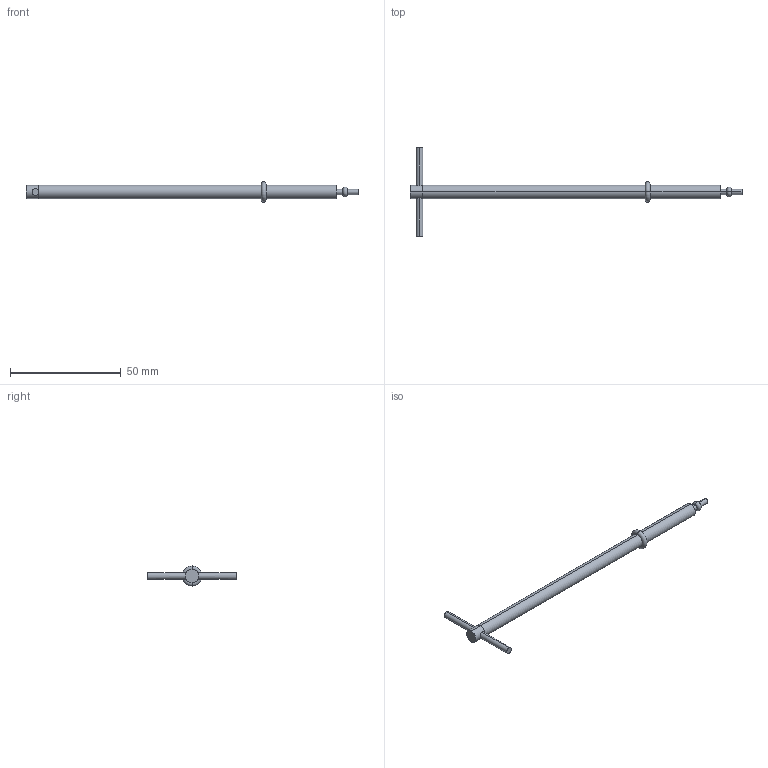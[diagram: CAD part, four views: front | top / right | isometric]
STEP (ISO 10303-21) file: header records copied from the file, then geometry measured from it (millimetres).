
FILE_DESCRIPTION (( 'STEP AP214' ), '1' );
FILE_NAME ('BRWV-106.STEP', '2020-06-23T10:49:34', ( '' ), ( '' ), 'SwSTEP 2.0', 'SolidWorks 2018', '' );
FILE_SCHEMA (( 'AUTOMOTIVE_DESIGN' ));
Length unit declared in the file: millimetre
Products named in the file (1): BRWV-106
Bounding box: 150 x 40 x 9.13 mm (x, y, z)
Volume: 4319.4 mm3; surface area: 3282.5 mm2
Topology: 1 solids, 1 shells, 27 faces, 52 edges, 32 vertices
Faces by surface type: cylinder 16, plane 7, torus 4
Entity records: 820 total; most frequent: CARTESIAN_POINT 212, DIRECTION 136, ORIENTED_EDGE 104, AXIS2_PLACEMENT_3D 60, EDGE_CURVE 52, EDGE_LOOP 32, CIRCLE 32, VERTEX_POINT 32
